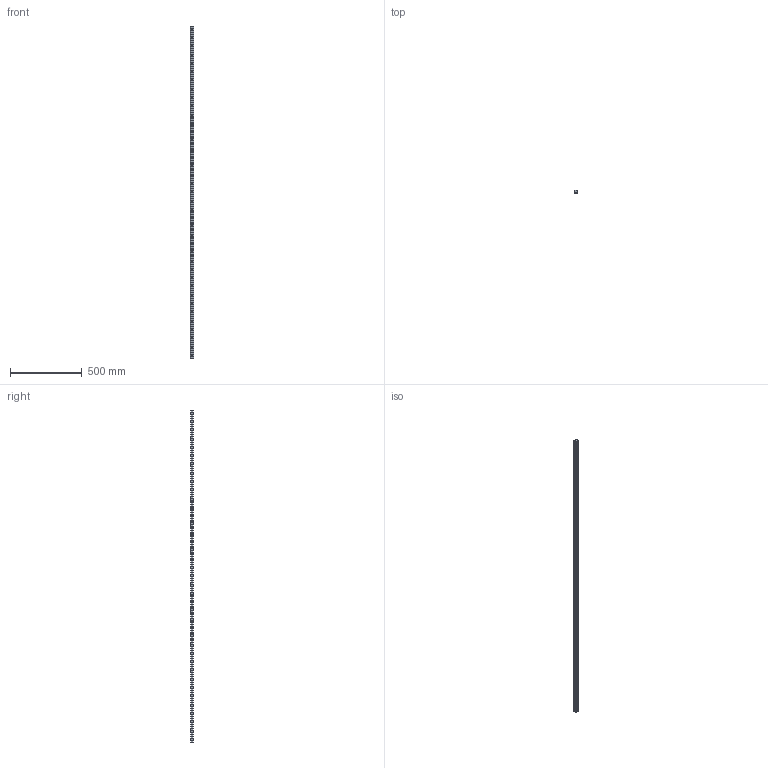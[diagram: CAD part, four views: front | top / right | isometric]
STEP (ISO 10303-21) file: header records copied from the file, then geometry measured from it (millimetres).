
FILE_DESCRIPTION (( 'STEP AP203' ), '1' );
FILE_NAME ('L1016.BL25-2320.step', '2019-06-12T12:10:48', ( '' ), ( '' ), 'SwSTEP 2.0', 'SolidWorks 2017', '' );
FILE_SCHEMA (( 'CONFIG_CONTROL_DESIGN' ));
Length unit declared in the file: millimetre
Products named in the file (1): L1016.BL25-2320
Bounding box: 23 x 19.2 x 2320 mm (x, y, z)
Volume: 854864.9 mm3; surface area: 219708.8 mm2
Topology: 1 solids, 1 shells, 221 faces, 540 edges, 360 vertices
Faces by surface type: cylinder 160, plane 61
Entity records: 6907 total; most frequent: DIRECTION 1304, CARTESIAN_POINT 1122, ORIENTED_EDGE 1080, AXIS2_PLACEMENT_3D 542, EDGE_CURVE 540, VERTEX_POINT 360, EDGE_LOOP 338, CIRCLE 320
